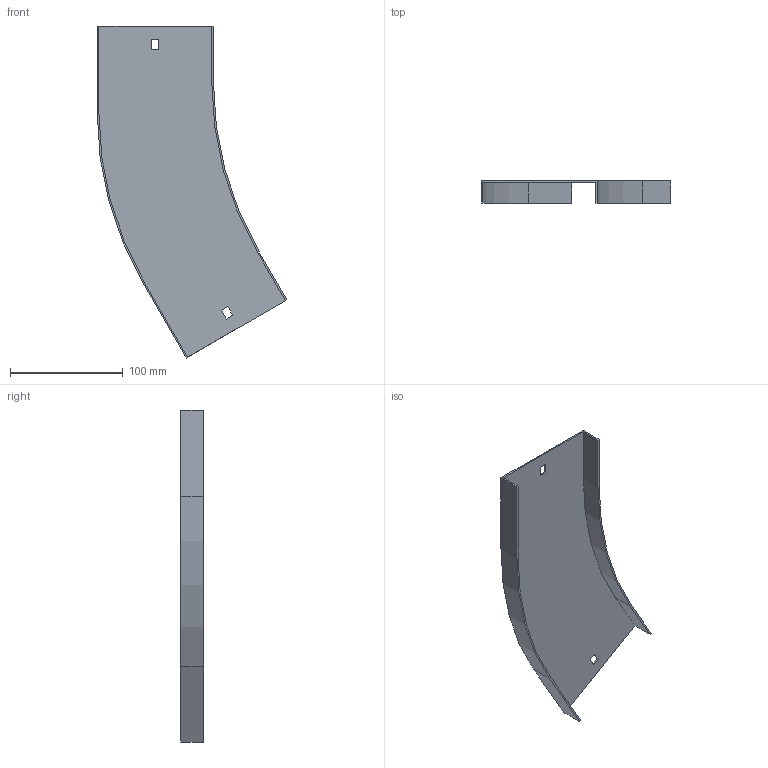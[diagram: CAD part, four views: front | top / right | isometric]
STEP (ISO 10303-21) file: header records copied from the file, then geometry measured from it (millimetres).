
FILE_DESCRIPTION (( 'STEP AP214' ), '1' );
FILE_NAME ('B2_12N3R100.step', '2025-02-21T10:49:17', ( '' ), ( '' ), 'SwSTEP 2.0', 'SolidWorks 2023', '' );
FILE_SCHEMA (( 'AUTOMOTIVE_DESIGN' ));
Length unit declared in the file: millimetre
Products named in the file (1): B2_12N3R100
Bounding box: 167.99 x 20 x 294.05 mm (x, y, z)
Volume: 59991.6 mm3; surface area: 81353.5 mm2
Topology: 1 solids, 1 shells, 26 faces, 72 edges, 48 vertices
Faces by surface type: plane 22, cylinder 4
Entity records: 855 total; most frequent: CARTESIAN_POINT 147, ORIENTED_EDGE 144, DIRECTION 134, EDGE_CURVE 72, LINE 64, VECTOR 64, VERTEX_POINT 48, AXIS2_PLACEMENT_3D 35
